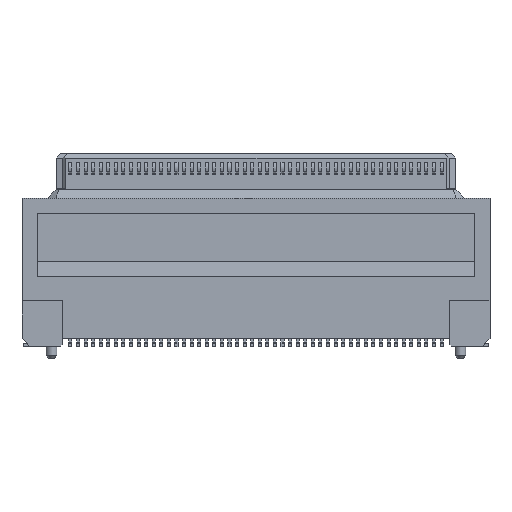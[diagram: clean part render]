
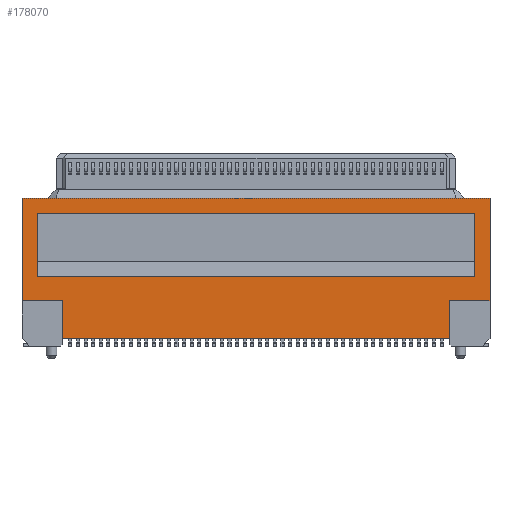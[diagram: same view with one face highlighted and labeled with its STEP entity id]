
A CAD part, front view. The second image highlights one B-rep face of the part: STEP entity #178070.
In plain terms, the highlighted planar face has unit normal (0, -1, 0) as drawn and (0, 0, 1) by its records, which use the part's own axes.
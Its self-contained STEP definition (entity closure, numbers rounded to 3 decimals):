
#1020=CARTESIAN_POINT('',(26.988,-4.86,5.3));
#1030=VERTEX_POINT('',#1020);
#1060=CARTESIAN_POINT('',(26.988,0.,5.3));
#1070=DIRECTION('',(0.,1.,0.));
#1080=VECTOR('',#1070,1.);
#1090=LINE('',#1060,#1080);
#1100=CARTESIAN_POINT('',(26.988,-2.36,5.3));
#1110=VERTEX_POINT('',#1100);
#1120=EDGE_CURVE('',#1030,#1110,#1090,.T.);
#98600=CARTESIAN_POINT('',(1.388,-4.86,5.3));
#98610=VERTEX_POINT('',#98600);
#98640=CARTESIAN_POINT('',(10.5,-4.86,5.3));
#98650=DIRECTION('',(-1.,0.,0.));
#98660=VECTOR('',#98650,1.);
#98670=LINE('',#98640,#98660);
#98680=EDGE_CURVE('',#1030,#98610,#98670,.T.);
#98890=CARTESIAN_POINT('',(29.638,4.41,5.3));
#98900=VERTEX_POINT('',#98890);
#99000=CARTESIAN_POINT('',(29.638,-2.36,5.3));
#99010=VERTEX_POINT('',#99000);
#99040=CARTESIAN_POINT('',(29.638,2.,5.3));
#99050=DIRECTION('',(0.,-1.,0.));
#99060=VECTOR('',#99050,1.);
#99070=LINE('',#99040,#99060);
#99080=EDGE_CURVE('',#98900,#99010,#99070,.T.);
#140710=CARTESIAN_POINT('',(28.638,3.41,5.3));
#140720=VERTEX_POINT('',#140710);
#140890=CARTESIAN_POINT('',(-0.262,3.41,5.3));
#140900=VERTEX_POINT('',#140890);
#140930=CARTESIAN_POINT('',(10.,3.41,5.3));
#140940=DIRECTION('',(1.,0.,0.));
#140950=VECTOR('',#140940,1.);
#140960=LINE('',#140930,#140950);
#140970=EDGE_CURVE('',#140900,#140720,#140960,.T.);
#143040=CARTESIAN_POINT('',(28.638,1.,5.3));
#143050=DIRECTION('',(0.,-1.,0.));
#143060=VECTOR('',#143050,1.);
#143070=LINE('',#143040,#143060);
#143080=CARTESIAN_POINT('',(28.638,-0.79,5.3));
#143090=VERTEX_POINT('',#143080);
#143100=EDGE_CURVE('',#140720,#143090,#143070,.T.);
#177430=CARTESIAN_POINT('',(33.638,-1.79,5.3));
#177440=DIRECTION('',(0.,0.,1.));
#177450=DIRECTION('',(1.,0.,0.));
#177460=AXIS2_PLACEMENT_3D('',#177430,#177440,#177450);
#177470=PLANE('',#177460);
#177480=CARTESIAN_POINT('',(1.388,0.,5.3));
#177490=DIRECTION('',(0.,-1.,0.));
#177500=VECTOR('',#177490,1.);
#177510=LINE('',#177480,#177500);
#177520=CARTESIAN_POINT('',(1.388,-2.36,5.3));
#177530=VERTEX_POINT('',#177520);
#177540=EDGE_CURVE('',#177530,#98610,#177510,.T.);
#177550=ORIENTED_EDGE('',*,*,#177540,.T.);
#177560=CARTESIAN_POINT('',(10.,-2.36,5.3));
#177570=DIRECTION('',(1.,0.,0.));
#177580=VECTOR('',#177570,1.);
#177590=LINE('',#177560,#177580);
#177600=CARTESIAN_POINT('',(-1.262,-2.36,5.3));
#177610=VERTEX_POINT('',#177600);
#177620=EDGE_CURVE('',#177610,#177530,#177590,.T.);
#177630=ORIENTED_EDGE('',*,*,#177620,.T.);
#177640=CARTESIAN_POINT('',(-1.262,3.,5.3));
#177650=DIRECTION('',(0.,1.,0.));
#177660=VECTOR('',#177650,1.);
#177670=LINE('',#177640,#177660);
#177680=CARTESIAN_POINT('',(-1.262,4.41,5.3));
#177690=VERTEX_POINT('',#177680);
#177700=EDGE_CURVE('',#177610,#177690,#177670,.T.);
#177710=ORIENTED_EDGE('',*,*,#177700,.F.);
#177720=CARTESIAN_POINT('',(48.876,4.41,5.3));
#177730=DIRECTION('',(1.,0.,0.));
#177740=VECTOR('',#177730,1.);
#177750=LINE('',#177720,#177740);
#177760=EDGE_CURVE('',#177690,#98900,#177750,.T.);
#177770=ORIENTED_EDGE('',*,*,#177760,.F.);
#177780=ORIENTED_EDGE('',*,*,#99080,.F.);
#177790=CARTESIAN_POINT('',(0.,-2.36,5.3));
#177800=DIRECTION('',(1.,0.,0.));
#177810=VECTOR('',#177800,1.);
#177820=LINE('',#177790,#177810);
#177830=EDGE_CURVE('',#1110,#99010,#177820,.T.);
#177840=ORIENTED_EDGE('',*,*,#177830,.T.);
#177850=ORIENTED_EDGE('',*,*,#1120,.T.);
#177860=ORIENTED_EDGE('',*,*,#98680,.F.);
#177870=EDGE_LOOP('',(#177860,#177850,#177840,#177780,#177770,#177710,
#177630,#177550));
#177880=FACE_OUTER_BOUND('',#177870,.T.);
#177890=ORIENTED_EDGE('',*,*,#143100,.T.);
#177900=ORIENTED_EDGE('',*,*,#140970,.T.);
#177910=CARTESIAN_POINT('',(-0.262,0.,5.3));
#177920=DIRECTION('',(0.,-1.,0.));
#177930=VECTOR('',#177920,1.);
#177940=LINE('',#177910,#177930);
#177950=CARTESIAN_POINT('',(-0.262,-0.79,5.3));
#177960=VERTEX_POINT('',#177950);
#177970=EDGE_CURVE('',#140900,#177960,#177940,.T.);
#177980=ORIENTED_EDGE('',*,*,#177970,.F.);
#177990=CARTESIAN_POINT('',(10.,-0.79,5.3));
#178000=DIRECTION('',(-1.,0.,0.));
#178010=VECTOR('',#178000,1.);
#178020=LINE('',#177990,#178010);
#178030=EDGE_CURVE('',#143090,#177960,#178020,.T.);
#178040=ORIENTED_EDGE('',*,*,#178030,.T.);
#178050=EDGE_LOOP('',(#178040,#177980,#177900,#177890));
#178060=FACE_BOUND('',#178050,.T.);
#178070=ADVANCED_FACE('',(#177880,#178060),#177470,.T.);
